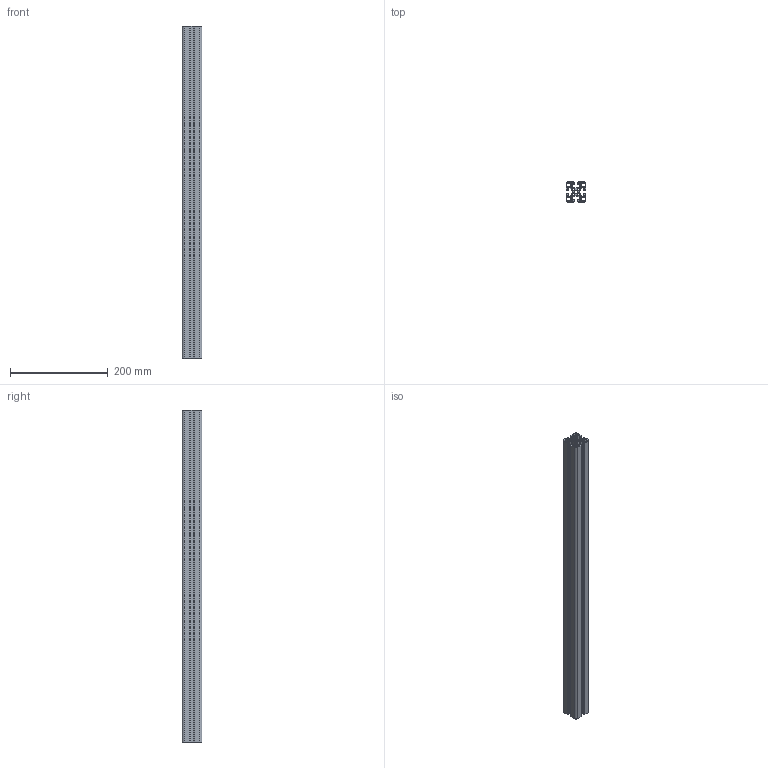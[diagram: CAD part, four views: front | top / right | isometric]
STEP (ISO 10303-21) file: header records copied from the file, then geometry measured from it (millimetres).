
FILE_DESCRIPTION(('no description'),'unknown implementation level');
FILE_NAME('7_0_000_09_5.stp',' ',('item Industrietechnik GmbH'),('CADClick - KiM GmbH - www.kimweb.de'),'unknown preprocess','ACIS','unknown authorization');
FILE_SCHEMA(('automotive_design'));
Length unit declared in the file: millimetre
Products named in the file (1): 1
Bounding box: 40 x 40 x 680 mm (x, y, z)
Volume: 349602.8 mm3; surface area: 396880.1 mm2
Topology: 1 solids, 1 shells, 236 faces, 702 edges, 468 vertices
Faces by surface type: cylinder 142, plane 94
Entity records: 15828 total; most frequent: DIRECTION 1460, STYLED_ITEM 1407, PRESENTATION_STYLE_ASSIGNMENT 1407, CARTESIAN_POINT 1407, COLOUR_RGB 1407, ORIENTED_EDGE 1404, EDGE_CURVE 702, CURVE_STYLE 702
